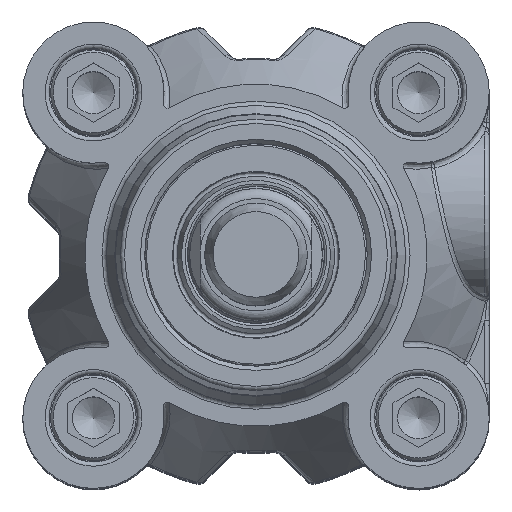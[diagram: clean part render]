
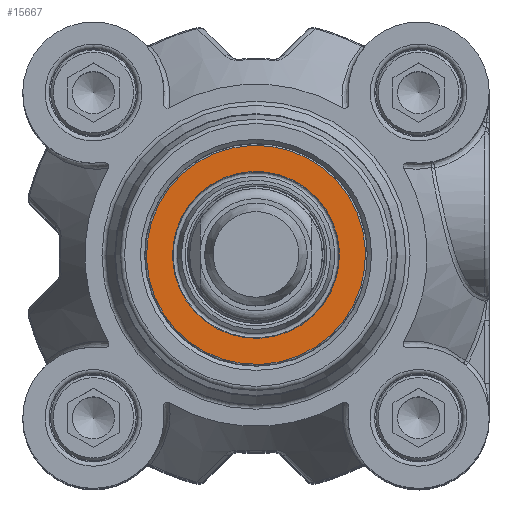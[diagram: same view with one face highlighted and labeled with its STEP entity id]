
A CAD part, top view. The second image highlights one B-rep face of the part: STEP entity #15667.
In plain terms, the highlighted planar face has unit normal (0, 0, 1).
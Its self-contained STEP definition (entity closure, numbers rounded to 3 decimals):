
#2800=PLANE('',#17146);
#3269=FACE_BOUND('',#5273,.T.);
#4026=FACE_OUTER_BOUND('',#5272,.T.);
#5272=EDGE_LOOP('',(#12476));
#5273=EDGE_LOOP('',(#12477));
#6029=CIRCLE('',#17126,12.8);
#6031=CIRCLE('',#17129,9.75);
#7287=VERTEX_POINT('',#28787);
#7289=VERTEX_POINT('',#28792);
#9106=EDGE_CURVE('',#7287,#7287,#6029,.T.);
#9108=EDGE_CURVE('',#7289,#7289,#6031,.T.);
#12476=ORIENTED_EDGE('',*,*,#9106,.T.);
#12477=ORIENTED_EDGE('',*,*,#9108,.F.);
#15667=ADVANCED_FACE('',(#4026,#3269),#2800,.F.);
#17126=AXIS2_PLACEMENT_3D('',#28788,#20447,#20448);
#17129=AXIS2_PLACEMENT_3D('',#28793,#20453,#20454);
#17146=AXIS2_PLACEMENT_3D('',#28818,#20487,#20488);
#20447=DIRECTION('center_axis',(0.,0.,1.));
#20448=DIRECTION('ref_axis',(0.734,0.679,0.));
#20453=DIRECTION('center_axis',(0.,0.,1.));
#20454=DIRECTION('ref_axis',(0.734,0.679,0.));
#20487=DIRECTION('center_axis',(0.,0.,-1.));
#20488=DIRECTION('ref_axis',(-1.,0.,0.));
#28787=CARTESIAN_POINT('',(9.4,8.688,58.3));
#28788=CARTESIAN_POINT('Origin',(0.,0.,58.3));
#28792=CARTESIAN_POINT('',(7.16,6.618,58.3));
#28793=CARTESIAN_POINT('Origin',(0.,0.,58.3));
#28818=CARTESIAN_POINT('Origin',(-8.688,9.4,58.3));
